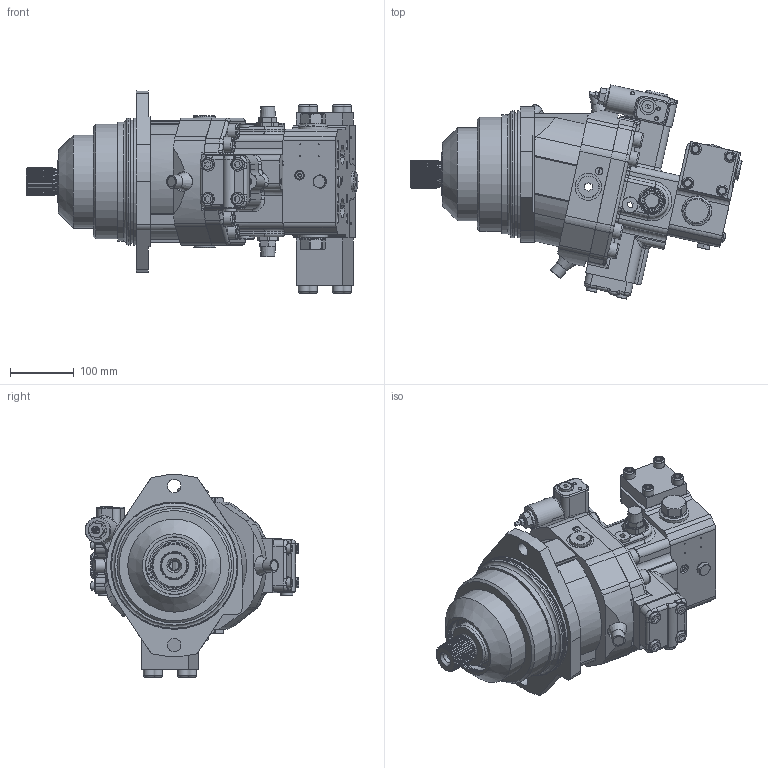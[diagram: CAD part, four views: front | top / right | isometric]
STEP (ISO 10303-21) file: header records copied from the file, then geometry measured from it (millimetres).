
FILE_DESCRIPTION (( 'STEP AP203' ), '1' );
FILE_NAME ('K21VE160HD1D／10W-VZL38800B-S液压马达.STEP', '2022-11-15T07:55:12', ( '' ), ( '' ), 'SwSTEP 2.0', 'SolidWorks 2015', '' );
FILE_SCHEMA (( 'CONFIG_CONTROL_DESIGN' ));
Products named in the file (1): K21VE160HD1D／10W-VZL38800B-S液压马达
Bounding box: 521.66 x 336.13 x 317.49 mm (x, y, z)
Surface area: 704653.9 mm2 (no closed solid volume)
Topology: 0 solids, 90 shells, 1405 faces, 4030 edges, 2664 vertices
Faces by surface type: plane 679, cylinder 432, bspline 107, torus 105, cone 72, sphere 10
Full cylindrical faces by diameter (mm): 1.6 x2, 2 x3, 4 x2, 5 x2, 5.5 x2, 6 x2, 9 x2, 11 x2, 12 x6, 12.5 x2, 13 x4, 14 x1, 15 x8, 16 x5, 17 x6, 18 x8, 19 x4, 20 x1, 20.5 x2, 21 x6, 24 x10, 26 x9, 28.5 x2, 29 x1, 30 x2, 32 x1, 34.05 x2, 38 x2, 39.6 x1, 40.5 x2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
Entity records: 52464 total; most frequent: CARTESIAN_POINT 17981, DIRECTION 6931, ORIENTED_EDGE 6598, EDGE_CURVE 3737, VERTEX_POINT 2604, AXIS2_PLACEMENT_3D 2604, EDGE_LOOP 1878, VECTOR 1723
